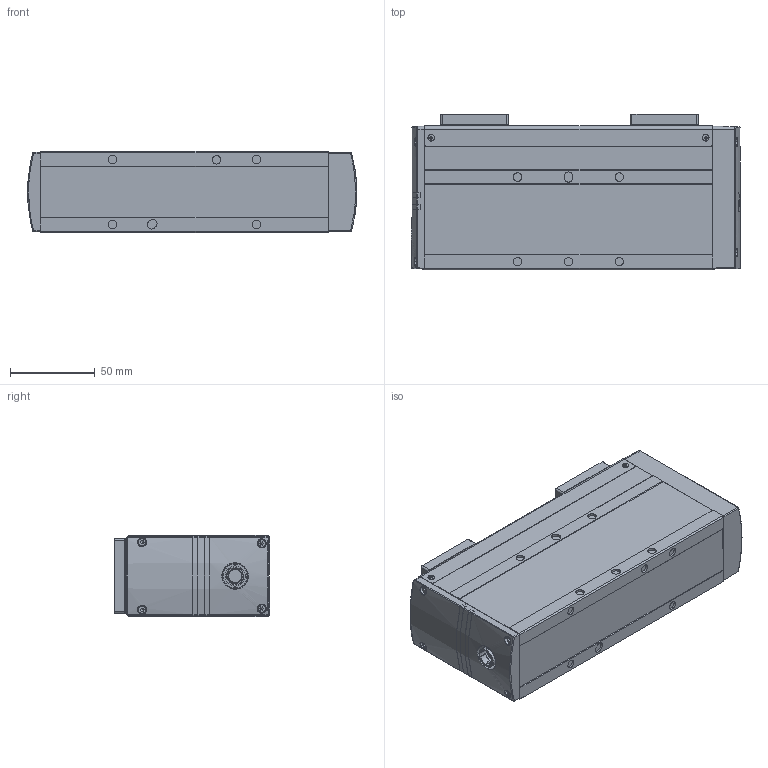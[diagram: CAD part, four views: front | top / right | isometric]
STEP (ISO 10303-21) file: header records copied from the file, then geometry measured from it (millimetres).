
FILE_DESCRIPTION (( 'STEP AP214' ), '1' );
FILE_NAME ('CHS35.STEP', '2018-10-25T06:45:10', ( 'neilchou' ), ( '' ), 'SwSTEP 2.0', 'SolidWorks 2018', '' );
FILE_SCHEMA (( 'AUTOMOTIVE_DESIGN' ));
Length unit declared in the file: millimetre
Products named in the file (12): ISO 7046-1 - M2 x 4 - Z - 4S_ISO 7046-1 - M2 x 4 - Z - 4S; 22119-000045; 22038-000143_預設<機器加工>; 35上滑座_預設<機器加工>; 22024-000361_預設<機器加工>; 21001-000191_12001-000194; CHS35; 22024-000358_預設<機器加工>; 22024-000364_預設<機器加工>; ISO 4762 M2.5 x 16 - 16S_ISO 4762 M2.5 x 16 - 16S; ISO 4762 M2.5 x 6 - 6S_ISO 4762 M2.5 x 6 - 6S; ISO 4762 M5 x 12 - 12S_ISO 4762 M5 x 12 - 12S
Assembly tree (29 placements, depth 2):
  CHS35
    21001-000191_12001-000194
    22024-000361_預設<機器加工>
    35上滑座_預設<機器加工>  x2
    22038-000143_預設<機器加工>
    22119-000045
    ISO 7046-1 - M2 x 4 - Z - 4S_ISO 7046-1 - M2 x 4 - Z - 4S  x4
    ISO 4762 M5 x 12 - 12S_ISO 4762 M5 x 12 - 12S  x8
    ISO 4762 M2.5 x 6 - 6S_ISO 4762 M2.5 x 6 - 6S  x4
    ISO 4762 M2.5 x 16 - 16S_ISO 4762 M2.5 x 16 - 16S  x4
    22024-000364_預設<機器加工>
    22024-000358_預設<機器加工>  x2
Bounding box: 194.5 x 92 x 48 mm (x, y, z)
Volume: 640498.8 mm3; surface area: 117469.6 mm2
Topology: 29 solids, 30 shells, 3470 faces, 8855 edges, 5524 vertices
Faces by surface type: cone 1500, cylinder 1026, plane 836, torus 80, bspline 28
Entity records: 49501 total; most frequent: CARTESIAN_POINT 13412, ORIENTED_EDGE 7470, DIRECTION 7452, EDGE_CURVE 3735, AXIS2_PLACEMENT_3D 2842, VERTEX_POINT 2383, LINE 1768, VECTOR 1768
